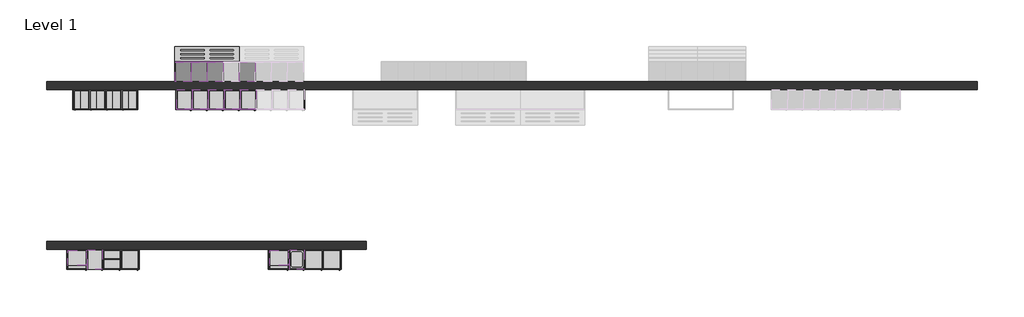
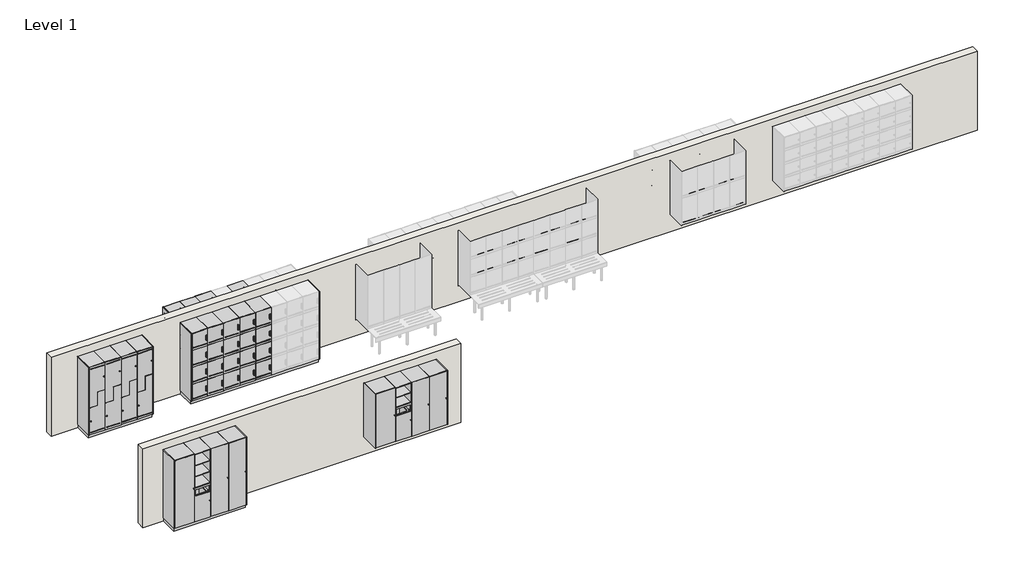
# One storey, part 1 of 3: 117 furniture elements, 2 walls.
"""IFC4 building model written with IfcOpenShell, lengths in millimetres."""

from ifc_helpers import new_model, si_unit, origin, origin_with_axes, place, context, project, spatial, polyline, outline, extrude, transform, mapped, element, save
from components import furniture_8c00c06e, furniture_f3d205c9, furniture_8214ae09, furniture_fe364a06, furniture_aa930519, standard_2dcb62da, standard_f5ae554c, standard_45df0485, standard_98e0e482, standard_d3161605, standard_4a91ac64, standard_77ee1bcb, standard_e3a21a26, standard_e2bbb5fc, standard_e0f8491c, standard_40445af7, standard_a614ba5f, standard_03c1f8a1, standard_9bb63482, standard_4930f884, standard_86fa131c, standard_540d4d76, standard_fa3f27c9, standard_7234d687, standard_b71e501f, standard_578dc294, standard_a6131b2d, standard_82cc17a7, standard_a539c340, standard_99a499ae, standard_25a9957e

model = new_model("IFC4")

# Units and contexts
model_context = context("Model", 3, world=origin())
ifc_project = project(units=[si_unit("LENGTHUNIT", "METRE", prefix="MILLI")], contexts=[model_context])

# Site, building, storey
site = spatial("IfcSite", under=ifc_project)
building = spatial("IfcBuilding", under=site)
storey = spatial("IfcBuildingStorey", under=building, Name="Level 1", Elevation=0.0)

# Furniture
placement = place(None, origin())
furniture_shape = furniture_8c00c06e(model_context)
element("IfcFurniture", 1, ObjectType="Lockers-Bay-Duracube-Duraloc : LPM-1900h x 500d x 400w with 100h x 50d Plinth-Stepped", at=placement, inside=storey, context=model_context, shape_type="MappedRepresentation", body=[
    mapped(furniture_shape, transform((-10635.1575415, 2567.7422336, 0.0), x_axis=(1.0, 0.0, 0.0), y_axis=(0.0, 1.0, 0.0), z_axis=(0.0, 0.0, 1.0))),
])
furniture_2_shape = furniture_f3d205c9(model_context)
element("IfcFurniture", 2, ObjectType="Lockers-Bay-Duracube-Duraloc : LPM-1900h x 500d x 400w with 100h x 50d Plinth", at=placement, inside=storey, context=model_context, shape_type="MappedRepresentation", body=[
    mapped(furniture_2_shape, transform((-8055.1575415, 2567.7422336, 0.0), x_axis=(1.0, 0.0, 0.0), y_axis=(0.0, 1.0, 0.0), z_axis=(0.0, 0.0, 1.0))),
])
furniture_3_shape = furniture_8214ae09(model_context)
element("IfcFurniture", 3, ObjectType="Lockers-Bay-Duracube-Duraloc : LWM-1900h x 500d x 400w @ 470h Wall", at=placement, inside=storey, context=model_context, shape_type="MappedRepresentation", body=[
    mapped(furniture_3_shape, transform((-7668.1575415, 3267.7422336, 0.0), x_axis=(-1.0, 0.0, 0.0), y_axis=(0.0, -1.0, 0.0), z_axis=(0.0, 0.0, 1.0))),
])
furniture_4_shape = furniture_fe364a06(model_context)
element("IfcFurniture", 4, ObjectType="Lockers-Bay-Duracube-End of Trip : LPM-1900h x 500d with 100h x 50d Plinth", at=placement, inside=storey, context=model_context, shape_type="MappedRepresentation", body=[
    mapped(furniture_4_shape, transform((-10795.1575415, -1432.2577664, 0.0), x_axis=(1.0, 0.0, 0.0), y_axis=(0.0, 1.0, 0.0), z_axis=(0.0, 0.0, 1.0))),
])
furniture_5_shape = furniture_aa930519(model_context)
element("IfcFurniture", 5, ObjectType="Lockers-Bay-Duracube-End of Trip : LWM-1900h x 500d @ 470h Wall", at=placement, inside=storey, context=model_context, shape_type="MappedRepresentation", body=[
    mapped(furniture_5_shape, transform((-5743.1575415, -1432.2577664, 0.0), x_axis=(1.0, 0.0, 0.0), y_axis=(0.0, 1.0, 0.0), z_axis=(0.0, 0.0, 1.0))),
])
standard_shape = standard_2dcb62da(model_context)
element("IfcFurniture", 6, ObjectType="X_Bench-Foot-Duracube-Wall Assembly : Standard", at=placement, inside=storey, context=model_context, shape_type="MappedRepresentation", body=[
    mapped(standard_shape, transform((-7229.9572151, 3517.7422336, 0.0), x_axis=(-1.0, 0.0, 0.0), y_axis=(0.0, -1.0, 0.0), z_axis=(0.0, 0.0, 1.0))),
])
standard_2_shape = standard_f5ae554c(model_context)
element("IfcFurniture", 7, ObjectType="X_Bench-Foot-Duracube-Wall Assembly : Standard", at=placement, inside=storey, context=model_context, shape_type="MappedRepresentation", body=[
    mapped(standard_2_shape, transform((-8012.357868, 3517.7422336, 0.0), x_axis=(1.0, 0.0, 0.0), y_axis=(0.0, 1.0, 0.0), z_axis=(0.0, 0.0, 1.0))),
])
standard_3_shape = standard_45df0485(model_context)
element("IfcFurniture", 8, ObjectType="X_Vanity-Angle-Duracube-Bench Support : Standard", at=placement, inside=storey, context=model_context, shape_type="MappedRepresentation", body=[
    mapped(standard_3_shape, transform((-7229.9572151, 3017.7422336, 417.0), x_axis=(-1.0, 0.0, 0.0), y_axis=(0.0, -1.0, 0.0), z_axis=(0.0, 0.0, 1.0))),
])
standard_4_shape = standard_98e0e482(model_context)
element("IfcFurniture", 9, ObjectType="X_Bench-Wall-Duracube-Locker : Standard", at=placement, inside=storey, context=model_context, shape_type="MappedRepresentation", body=[
    mapped(standard_4_shape, transform((-7229.9572151, 3110.2422336, 0.0), x_axis=(-1.0, 0.0, 0.0), y_axis=(0.0, -1.0, 0.0), z_axis=(0.0, 0.0, 1.0))),
])
standard_5_shape = standard_d3161605(model_context)
element("IfcFurniture", 10, ObjectType="X_Locker-Duracube-Bay : Standard", at=placement, inside=storey, context=model_context, shape_type="MappedRepresentation", body=[
    mapped(standard_5_shape, transform((-9266.857868, 2817.7422336, 1180.0), x_axis=(1.0, 0.0, 0.0), y_axis=(0.0, 1.0, 0.0), z_axis=(0.0, 0.0, 1.0))),
])
element("IfcFurniture", 11, ObjectType="X_Locker-Duracube-Bay : Standard", at=placement, inside=storey, context=model_context, shape_type="MappedRepresentation", body=[
    mapped(standard_5_shape, transform((-9666.857868, 2817.7422336, 1180.0), x_axis=(1.0, 0.0, 0.0), y_axis=(0.0, 1.0, 0.0), z_axis=(0.0, 0.0, 1.0))),
])
element("IfcFurniture", 12, ObjectType="X_Locker-Duracube-Bay : Standard", at=placement, inside=storey, context=model_context, shape_type="MappedRepresentation", body=[
    mapped(standard_5_shape, transform((-10066.857868, 2817.7422336, 1180.0), x_axis=(1.0, 0.0, 0.0), y_axis=(0.0, 1.0, 0.0), z_axis=(0.0, 0.0, 1.0))),
])
element("IfcFurniture", 13, ObjectType="X_Locker-Duracube-Bay : Standard", at=placement, inside=storey, context=model_context, shape_type="MappedRepresentation", body=[
    mapped(standard_5_shape, transform((-10466.857868, 2817.7422336, 1180.0), x_axis=(1.0, 0.0, 0.0), y_axis=(0.0, 1.0, 0.0), z_axis=(0.0, 0.0, 1.0))),
])
standard_6_shape = standard_4a91ac64(model_context)
element("IfcFurniture", 14, ObjectType="X_Locker-Duracube-Door : Standard", at=placement, inside=storey, context=model_context, shape_type="MappedRepresentation", body=[
    mapped(standard_6_shape, transform((-9266.857868, 2330.7422336, 1180.0), x_axis=(1.0, 0.0, 0.0), y_axis=(0.0, 1.0, 0.0), z_axis=(0.0, 0.0, 1.0))),
])
element("IfcFurniture", 15, ObjectType="X_Locker-Duracube-Door : Standard", at=placement, inside=storey, context=model_context, shape_type="MappedRepresentation", body=[
    mapped(standard_6_shape, transform((-9666.857868, 2330.7422336, 1180.0), x_axis=(1.0, 0.0, 0.0), y_axis=(0.0, 1.0, 0.0), z_axis=(0.0, 0.0, 1.0))),
])
element("IfcFurniture", 16, ObjectType="X_Locker-Duracube-Door : Standard", at=placement, inside=storey, context=model_context, shape_type="MappedRepresentation", body=[
    mapped(standard_6_shape, transform((-10066.857868, 2330.7422336, 1180.0), x_axis=(1.0, 0.0, 0.0), y_axis=(0.0, 1.0, 0.0), z_axis=(0.0, 0.0, 1.0))),
])
element("IfcFurniture", 17, ObjectType="X_Locker-Duracube-Door : Standard", at=placement, inside=storey, context=model_context, shape_type="MappedRepresentation", body=[
    mapped(standard_6_shape, transform((-10466.857868, 2330.7422336, 1180.0), x_axis=(1.0, 0.0, 0.0), y_axis=(0.0, 1.0, 0.0), z_axis=(0.0, 0.0, 1.0))),
])
standard_7_shape = standard_77ee1bcb(model_context)
element("IfcFurniture", 18, ObjectType="X_Locker-Duracube-Bay : Standard", at=placement, inside=storey, context=model_context, shape_type="MappedRepresentation", body=[
    mapped(standard_7_shape, transform((-9266.857868, 2817.7422336, 100.0), x_axis=(1.0, 0.0, 0.0), y_axis=(0.0, 1.0, 0.0), z_axis=(0.0, 0.0, 1.0))),
])
element("IfcFurniture", 19, ObjectType="X_Locker-Duracube-Bay : Standard", at=placement, inside=storey, context=model_context, shape_type="MappedRepresentation", body=[
    mapped(standard_7_shape, transform((-9666.857868, 2817.7422336, 100.0), x_axis=(1.0, 0.0, 0.0), y_axis=(0.0, 1.0, 0.0), z_axis=(0.0, 0.0, 1.0))),
])
element("IfcFurniture", 20, ObjectType="X_Locker-Duracube-Bay : Standard", at=placement, inside=storey, context=model_context, shape_type="MappedRepresentation", body=[
    mapped(standard_7_shape, transform((-10066.857868, 2817.7422336, 100.0), x_axis=(1.0, 0.0, 0.0), y_axis=(0.0, 1.0, 0.0), z_axis=(0.0, 0.0, 1.0))),
])
element("IfcFurniture", 21, ObjectType="X_Locker-Duracube-Bay : Standard", at=placement, inside=storey, context=model_context, shape_type="MappedRepresentation", body=[
    mapped(standard_7_shape, transform((-10466.857868, 2817.7422336, 100.0), x_axis=(1.0, 0.0, 0.0), y_axis=(0.0, 1.0, 0.0), z_axis=(0.0, 0.0, 1.0))),
])
standard_8_shape = standard_e3a21a26(model_context)
element("IfcFurniture", 22, ObjectType="X_Locker-Duracube-Door : Standard", at=placement, inside=storey, context=model_context, shape_type="MappedRepresentation", body=[
    mapped(standard_8_shape, transform((-9266.857868, 2330.7422336, 100.0), x_axis=(1.0, 0.0, 0.0), y_axis=(0.0, 1.0, 0.0), z_axis=(0.0, 0.0, 1.0))),
])
element("IfcFurniture", 23, ObjectType="X_Locker-Duracube-Door : Standard", at=placement, inside=storey, context=model_context, shape_type="MappedRepresentation", body=[
    mapped(standard_8_shape, transform((-9666.857868, 2330.7422336, 100.0), x_axis=(1.0, 0.0, 0.0), y_axis=(0.0, 1.0, 0.0), z_axis=(0.0, 0.0, 1.0))),
])
element("IfcFurniture", 24, ObjectType="X_Locker-Duracube-Door : Standard", at=placement, inside=storey, context=model_context, shape_type="MappedRepresentation", body=[
    mapped(standard_8_shape, transform((-10066.857868, 2330.7422336, 100.0), x_axis=(1.0, 0.0, 0.0), y_axis=(0.0, 1.0, 0.0), z_axis=(0.0, 0.0, 1.0))),
])
element("IfcFurniture", 25, ObjectType="X_Locker-Duracube-Door : Standard", at=placement, inside=storey, context=model_context, shape_type="MappedRepresentation", body=[
    mapped(standard_8_shape, transform((-10466.857868, 2330.7422336, 100.0), x_axis=(1.0, 0.0, 0.0), y_axis=(0.0, 1.0, 0.0), z_axis=(0.0, 0.0, 1.0))),
])
standard_9_shape = standard_e2bbb5fc(model_context)
element("IfcFurniture", 26, ObjectType="X_Locker-Duracube-Bay : Standard", at=placement, inside=storey, context=model_context, shape_type="MappedRepresentation", body=[
    mapped(standard_9_shape, transform((-6286.857868, 2817.7422336, 1450.0), x_axis=(1.0, 0.0, 0.0), y_axis=(0.0, 1.0, 0.0), z_axis=(0.0, 0.0, 1.0))),
])
element("IfcFurniture", 27, ObjectType="X_Locker-Duracube-Bay : Standard", at=placement, inside=storey, context=model_context, shape_type="MappedRepresentation", body=[
    mapped(standard_9_shape, transform((-6686.857868, 2817.7422336, 1450.0), x_axis=(1.0, 0.0, 0.0), y_axis=(0.0, 1.0, 0.0), z_axis=(0.0, 0.0, 1.0))),
])
element("IfcFurniture", 28, ObjectType="X_Locker-Duracube-Bay : Standard", at=placement, inside=storey, context=model_context, shape_type="MappedRepresentation", body=[
    mapped(standard_9_shape, transform((-7086.857868, 2817.7422336, 1450.0), x_axis=(1.0, 0.0, 0.0), y_axis=(0.0, 1.0, 0.0), z_axis=(0.0, 0.0, 1.0))),
])
element("IfcFurniture", 29, ObjectType="X_Locker-Duracube-Bay : Standard", at=placement, inside=storey, context=model_context, shape_type="MappedRepresentation", body=[
    mapped(standard_9_shape, transform((-7486.857868, 2817.7422336, 1450.0), x_axis=(1.0, 0.0, 0.0), y_axis=(0.0, 1.0, 0.0), z_axis=(0.0, 0.0, 1.0))),
])
element("IfcFurniture", 30, ObjectType="X_Locker-Duracube-Bay : Standard", at=placement, inside=storey, context=model_context, shape_type="MappedRepresentation", body=[
    mapped(standard_9_shape, transform((-7886.857868, 2817.7422336, 1450.0), x_axis=(1.0, 0.0, 0.0), y_axis=(0.0, 1.0, 0.0), z_axis=(0.0, 0.0, 1.0))),
])
standard_10_shape = standard_e0f8491c(model_context)
element("IfcFurniture", 31, ObjectType="X_Locker-Duracube-Door : Standard", at=placement, inside=storey, context=model_context, shape_type="MappedRepresentation", body=[
    mapped(standard_10_shape, transform((-6286.857868, 2330.7422336, 1450.0), x_axis=(1.0, 0.0, 0.0), y_axis=(0.0, 1.0, 0.0), z_axis=(0.0, 0.0, 1.0))),
])
element("IfcFurniture", 32, ObjectType="X_Locker-Duracube-Door : Standard", at=placement, inside=storey, context=model_context, shape_type="MappedRepresentation", body=[
    mapped(standard_10_shape, transform((-6686.857868, 2330.7422336, 1450.0), x_axis=(1.0, 0.0, 0.0), y_axis=(0.0, 1.0, 0.0), z_axis=(0.0, 0.0, 1.0))),
])
element("IfcFurniture", 33, ObjectType="X_Locker-Duracube-Door : Standard", at=placement, inside=storey, context=model_context, shape_type="MappedRepresentation", body=[
    mapped(standard_10_shape, transform((-7086.857868, 2330.7422336, 1450.0), x_axis=(1.0, 0.0, 0.0), y_axis=(0.0, 1.0, 0.0), z_axis=(0.0, 0.0, 1.0))),
])
element("IfcFurniture", 34, ObjectType="X_Locker-Duracube-Door : Standard", at=placement, inside=storey, context=model_context, shape_type="MappedRepresentation", body=[
    mapped(standard_10_shape, transform((-7486.857868, 2330.7422336, 1450.0), x_axis=(1.0, 0.0, 0.0), y_axis=(0.0, 1.0, 0.0), z_axis=(0.0, 0.0, 1.0))),
])
element("IfcFurniture", 35, ObjectType="X_Locker-Duracube-Door : Standard", at=placement, inside=storey, context=model_context, shape_type="MappedRepresentation", body=[
    mapped(standard_10_shape, transform((-7886.857868, 2330.7422336, 1450.0), x_axis=(1.0, 0.0, 0.0), y_axis=(0.0, 1.0, 0.0), z_axis=(0.0, 0.0, 1.0))),
])
element("IfcFurniture", 36, ObjectType="X_Locker-Duracube-Bay : Standard", at=placement, inside=storey, context=model_context, shape_type="MappedRepresentation", body=[
    mapped(standard_9_shape, transform((-6286.857868, 2817.7422336, 1000.0), x_axis=(1.0, 0.0, 0.0), y_axis=(0.0, 1.0, 0.0), z_axis=(0.0, 0.0, 1.0))),
])
element("IfcFurniture", 37, ObjectType="X_Locker-Duracube-Bay : Standard", at=placement, inside=storey, context=model_context, shape_type="MappedRepresentation", body=[
    mapped(standard_9_shape, transform((-6686.857868, 2817.7422336, 1000.0), x_axis=(1.0, 0.0, 0.0), y_axis=(0.0, 1.0, 0.0), z_axis=(0.0, 0.0, 1.0))),
])
element("IfcFurniture", 38, ObjectType="X_Locker-Duracube-Bay : Standard", at=placement, inside=storey, context=model_context, shape_type="MappedRepresentation", body=[
    mapped(standard_9_shape, transform((-7086.857868, 2817.7422336, 1000.0), x_axis=(1.0, 0.0, 0.0), y_axis=(0.0, 1.0, 0.0), z_axis=(0.0, 0.0, 1.0))),
])
element("IfcFurniture", 39, ObjectType="X_Locker-Duracube-Bay : Standard", at=placement, inside=storey, context=model_context, shape_type="MappedRepresentation", body=[
    mapped(standard_9_shape, transform((-6286.857868, 2817.7422336, 100.0), x_axis=(1.0, 0.0, 0.0), y_axis=(0.0, 1.0, 0.0), z_axis=(0.0, 0.0, 1.0))),
])
element("IfcFurniture", 40, ObjectType="X_Locker-Duracube-Bay : Standard", at=placement, inside=storey, context=model_context, shape_type="MappedRepresentation", body=[
    mapped(standard_9_shape, transform((-6686.857868, 2817.7422336, 100.0), x_axis=(1.0, 0.0, 0.0), y_axis=(0.0, 1.0, 0.0), z_axis=(0.0, 0.0, 1.0))),
])
element("IfcFurniture", 41, ObjectType="X_Locker-Duracube-Bay : Standard", at=placement, inside=storey, context=model_context, shape_type="MappedRepresentation", body=[
    mapped(standard_9_shape, transform((-7086.857868, 2817.7422336, 100.0), x_axis=(1.0, 0.0, 0.0), y_axis=(0.0, 1.0, 0.0), z_axis=(0.0, 0.0, 1.0))),
])
element("IfcFurniture", 42, ObjectType="X_Locker-Duracube-Bay : Standard", at=placement, inside=storey, context=model_context, shape_type="MappedRepresentation", body=[
    mapped(standard_9_shape, transform((-7486.857868, 2817.7422336, 1000.0), x_axis=(1.0, 0.0, 0.0), y_axis=(0.0, 1.0, 0.0), z_axis=(0.0, 0.0, 1.0))),
])
element("IfcFurniture", 43, ObjectType="X_Locker-Duracube-Bay : Standard", at=placement, inside=storey, context=model_context, shape_type="MappedRepresentation", body=[
    mapped(standard_9_shape, transform((-7486.857868, 2817.7422336, 100.0), x_axis=(1.0, 0.0, 0.0), y_axis=(0.0, 1.0, 0.0), z_axis=(0.0, 0.0, 1.0))),
])
element("IfcFurniture", 44, ObjectType="X_Locker-Duracube-Bay : Standard", at=placement, inside=storey, context=model_context, shape_type="MappedRepresentation", body=[
    mapped(standard_9_shape, transform((-7886.857868, 2817.7422336, 1000.0), x_axis=(1.0, 0.0, 0.0), y_axis=(0.0, 1.0, 0.0), z_axis=(0.0, 0.0, 1.0))),
])
element("IfcFurniture", 45, ObjectType="X_Locker-Duracube-Bay : Standard", at=placement, inside=storey, context=model_context, shape_type="MappedRepresentation", body=[
    mapped(standard_9_shape, transform((-7886.857868, 2817.7422336, 100.0), x_axis=(1.0, 0.0, 0.0), y_axis=(0.0, 1.0, 0.0), z_axis=(0.0, 0.0, 1.0))),
])
element("IfcFurniture", 46, ObjectType="X_Locker-Duracube-Door : Standard", at=placement, inside=storey, context=model_context, shape_type="MappedRepresentation", body=[
    mapped(standard_10_shape, transform((-6286.857868, 2330.7422336, 1000.0), x_axis=(1.0, 0.0, 0.0), y_axis=(0.0, 1.0, 0.0), z_axis=(0.0, 0.0, 1.0))),
])
element("IfcFurniture", 47, ObjectType="X_Locker-Duracube-Door : Standard", at=placement, inside=storey, context=model_context, shape_type="MappedRepresentation", body=[
    mapped(standard_10_shape, transform((-6686.857868, 2330.7422336, 1000.0), x_axis=(1.0, 0.0, 0.0), y_axis=(0.0, 1.0, 0.0), z_axis=(0.0, 0.0, 1.0))),
])
element("IfcFurniture", 48, ObjectType="X_Locker-Duracube-Door : Standard", at=placement, inside=storey, context=model_context, shape_type="MappedRepresentation", body=[
    mapped(standard_10_shape, transform((-7086.857868, 2330.7422336, 1000.0), x_axis=(1.0, 0.0, 0.0), y_axis=(0.0, 1.0, 0.0), z_axis=(0.0, 0.0, 1.0))),
])
element("IfcFurniture", 49, ObjectType="X_Locker-Duracube-Door : Standard", at=placement, inside=storey, context=model_context, shape_type="MappedRepresentation", body=[
    mapped(standard_10_shape, transform((-6286.857868, 2330.7422336, 100.0), x_axis=(1.0, 0.0, 0.0), y_axis=(0.0, 1.0, 0.0), z_axis=(0.0, 0.0, 1.0))),
])
element("IfcFurniture", 50, ObjectType="X_Locker-Duracube-Door : Standard", at=placement, inside=storey, context=model_context, shape_type="MappedRepresentation", body=[
    mapped(standard_10_shape, transform((-6686.857868, 2330.7422336, 100.0), x_axis=(1.0, 0.0, 0.0), y_axis=(0.0, 1.0, 0.0), z_axis=(0.0, 0.0, 1.0))),
])
element("IfcFurniture", 51, ObjectType="X_Locker-Duracube-Door : Standard", at=placement, inside=storey, context=model_context, shape_type="MappedRepresentation", body=[
    mapped(standard_10_shape, transform((-7086.857868, 2330.7422336, 100.0), x_axis=(1.0, 0.0, 0.0), y_axis=(0.0, 1.0, 0.0), z_axis=(0.0, 0.0, 1.0))),
])
element("IfcFurniture", 52, ObjectType="X_Locker-Duracube-Door : Standard", at=placement, inside=storey, context=model_context, shape_type="MappedRepresentation", body=[
    mapped(standard_10_shape, transform((-7486.857868, 2330.7422336, 1000.0), x_axis=(1.0, 0.0, 0.0), y_axis=(0.0, 1.0, 0.0), z_axis=(0.0, 0.0, 1.0))),
])
element("IfcFurniture", 53, ObjectType="X_Locker-Duracube-Door : Standard", at=placement, inside=storey, context=model_context, shape_type="MappedRepresentation", body=[
    mapped(standard_10_shape, transform((-7486.857868, 2330.7422336, 100.0), x_axis=(1.0, 0.0, 0.0), y_axis=(0.0, 1.0, 0.0), z_axis=(0.0, 0.0, 1.0))),
])
element("IfcFurniture", 54, ObjectType="X_Locker-Duracube-Door : Standard", at=placement, inside=storey, context=model_context, shape_type="MappedRepresentation", body=[
    mapped(standard_10_shape, transform((-7886.857868, 2330.7422336, 1000.0), x_axis=(1.0, 0.0, 0.0), y_axis=(0.0, 1.0, 0.0), z_axis=(0.0, 0.0, 1.0))),
])
element("IfcFurniture", 55, ObjectType="X_Locker-Duracube-Door : Standard", at=placement, inside=storey, context=model_context, shape_type="MappedRepresentation", body=[
    mapped(standard_10_shape, transform((-7886.857868, 2330.7422336, 100.0), x_axis=(1.0, 0.0, 0.0), y_axis=(0.0, 1.0, 0.0), z_axis=(0.0, 0.0, 1.0))),
])
element("IfcFurniture", 56, ObjectType="X_Locker-Duracube-Bay : Standard", at=placement, inside=storey, context=model_context, shape_type="MappedRepresentation", body=[
    mapped(standard_9_shape, transform((-6286.857868, 2817.7422336, 550.0), x_axis=(1.0, 0.0, 0.0), y_axis=(0.0, 1.0, 0.0), z_axis=(0.0, 0.0, 1.0))),
])
element("IfcFurniture", 57, ObjectType="X_Locker-Duracube-Bay : Standard", at=placement, inside=storey, context=model_context, shape_type="MappedRepresentation", body=[
    mapped(standard_9_shape, transform((-6686.857868, 2817.7422336, 550.0), x_axis=(1.0, 0.0, 0.0), y_axis=(0.0, 1.0, 0.0), z_axis=(0.0, 0.0, 1.0))),
])
element("IfcFurniture", 58, ObjectType="X_Locker-Duracube-Bay : Standard", at=placement, inside=storey, context=model_context, shape_type="MappedRepresentation", body=[
    mapped(standard_9_shape, transform((-7086.857868, 2817.7422336, 550.0), x_axis=(1.0, 0.0, 0.0), y_axis=(0.0, 1.0, 0.0), z_axis=(0.0, 0.0, 1.0))),
])
element("IfcFurniture", 59, ObjectType="X_Locker-Duracube-Bay : Standard", at=placement, inside=storey, context=model_context, shape_type="MappedRepresentation", body=[
    mapped(standard_9_shape, transform((-7486.857868, 2817.7422336, 550.0), x_axis=(1.0, 0.0, 0.0), y_axis=(0.0, 1.0, 0.0), z_axis=(0.0, 0.0, 1.0))),
])
element("IfcFurniture", 60, ObjectType="X_Locker-Duracube-Bay : Standard", at=placement, inside=storey, context=model_context, shape_type="MappedRepresentation", body=[
    mapped(standard_9_shape, transform((-7886.857868, 2817.7422336, 550.0), x_axis=(1.0, 0.0, 0.0), y_axis=(0.0, 1.0, 0.0), z_axis=(0.0, 0.0, 1.0))),
])
element("IfcFurniture", 61, ObjectType="X_Locker-Duracube-Door : Standard", at=placement, inside=storey, context=model_context, shape_type="MappedRepresentation", body=[
    mapped(standard_10_shape, transform((-6286.857868, 2330.7422336, 550.0), x_axis=(1.0, 0.0, 0.0), y_axis=(0.0, 1.0, 0.0), z_axis=(0.0, 0.0, 1.0))),
])
element("IfcFurniture", 62, ObjectType="X_Locker-Duracube-Door : Standard", at=placement, inside=storey, context=model_context, shape_type="MappedRepresentation", body=[
    mapped(standard_10_shape, transform((-6686.857868, 2330.7422336, 550.0), x_axis=(1.0, 0.0, 0.0), y_axis=(0.0, 1.0, 0.0), z_axis=(0.0, 0.0, 1.0))),
])
element("IfcFurniture", 63, ObjectType="X_Locker-Duracube-Door : Standard", at=placement, inside=storey, context=model_context, shape_type="MappedRepresentation", body=[
    mapped(standard_10_shape, transform((-7086.857868, 2330.7422336, 550.0), x_axis=(1.0, 0.0, 0.0), y_axis=(0.0, 1.0, 0.0), z_axis=(0.0, 0.0, 1.0))),
])
element("IfcFurniture", 64, ObjectType="X_Locker-Duracube-Door : Standard", at=placement, inside=storey, context=model_context, shape_type="MappedRepresentation", body=[
    mapped(standard_10_shape, transform((-7486.857868, 2330.7422336, 550.0), x_axis=(1.0, 0.0, 0.0), y_axis=(0.0, 1.0, 0.0), z_axis=(0.0, 0.0, 1.0))),
])
element("IfcFurniture", 65, ObjectType="X_Locker-Duracube-Door : Standard", at=placement, inside=storey, context=model_context, shape_type="MappedRepresentation", body=[
    mapped(standard_10_shape, transform((-7886.857868, 2330.7422336, 550.0), x_axis=(1.0, 0.0, 0.0), y_axis=(0.0, 1.0, 0.0), z_axis=(0.0, 0.0, 1.0))),
])
standard_11_shape = standard_40445af7(model_context)
element("IfcFurniture", 66, ObjectType="X_Locker-Duracube-Bay : Standard", at=placement, inside=storey, context=model_context, shape_type="MappedRepresentation", body=[
    mapped(standard_11_shape, transform((-6223.4572151, 3017.7422336, 827.5), x_axis=(-1.0, 0.0, 0.0), y_axis=(0.0, -1.0, 0.0), z_axis=(0.0, 0.0, 1.0))),
])
element("IfcFurniture", 67, ObjectType="X_Locker-Duracube-Bay : Standard", at=placement, inside=storey, context=model_context, shape_type="MappedRepresentation", body=[
    mapped(standard_11_shape, transform((-6223.4572151, 3017.7422336, 1542.5), x_axis=(-1.0, 0.0, 0.0), y_axis=(0.0, -1.0, 0.0), z_axis=(0.0, 0.0, 1.0))),
])
element("IfcFurniture", 68, ObjectType="X_Locker-Duracube-Bay : Standard", at=placement, inside=storey, context=model_context, shape_type="MappedRepresentation", body=[
    mapped(standard_11_shape, transform((-7023.4572151, 3017.7422336, 827.5), x_axis=(-1.0, 0.0, 0.0), y_axis=(0.0, -1.0, 0.0), z_axis=(0.0, 0.0, 1.0))),
])
element("IfcFurniture", 69, ObjectType="X_Locker-Duracube-Bay : Standard", at=placement, inside=storey, context=model_context, shape_type="MappedRepresentation", body=[
    mapped(standard_11_shape, transform((-7023.4572151, 3017.7422336, 1542.5), x_axis=(-1.0, 0.0, 0.0), y_axis=(0.0, -1.0, 0.0), z_axis=(0.0, 0.0, 1.0))),
])
element("IfcFurniture", 70, ObjectType="X_Locker-Duracube-Bay : Standard", at=placement, inside=storey, context=model_context, shape_type="MappedRepresentation", body=[
    mapped(standard_11_shape, transform((-7423.4572151, 3017.7422336, 470.0), x_axis=(-1.0, 0.0, 0.0), y_axis=(0.0, -1.0, 0.0), z_axis=(0.0, 0.0, 1.0))),
])
element("IfcFurniture", 71, ObjectType="X_Locker-Duracube-Bay : Standard", at=placement, inside=storey, context=model_context, shape_type="MappedRepresentation", body=[
    mapped(standard_11_shape, transform((-7423.4572151, 3017.7422336, 1185.0), x_axis=(-1.0, 0.0, 0.0), y_axis=(0.0, -1.0, 0.0), z_axis=(0.0, 0.0, 1.0))),
])
element("IfcFurniture", 72, ObjectType="X_Locker-Duracube-Bay : Standard", at=placement, inside=storey, context=model_context, shape_type="MappedRepresentation", body=[
    mapped(standard_11_shape, transform((-7823.4572151, 3017.7422336, 827.5), x_axis=(-1.0, 0.0, 0.0), y_axis=(0.0, -1.0, 0.0), z_axis=(0.0, 0.0, 1.0))),
])
element("IfcFurniture", 73, ObjectType="X_Locker-Duracube-Bay : Standard", at=placement, inside=storey, context=model_context, shape_type="MappedRepresentation", body=[
    mapped(standard_11_shape, transform((-7823.4572151, 3017.7422336, 1542.5), x_axis=(-1.0, 0.0, 0.0), y_axis=(0.0, -1.0, 0.0), z_axis=(0.0, 0.0, 1.0))),
])
standard_12_shape = standard_a614ba5f(model_context)
element("IfcFurniture", 74, ObjectType="X_Locker-Duracube-Door : Standard", at=placement, inside=storey, context=model_context, shape_type="MappedRepresentation", body=[
    mapped(standard_12_shape, transform((-6223.4572151, 3504.7422336, 827.5), x_axis=(-1.0, 0.0, 0.0), y_axis=(0.0, -1.0, 0.0), z_axis=(0.0, 0.0, 1.0))),
])
element("IfcFurniture", 75, ObjectType="X_Locker-Duracube-Door : Standard", at=placement, inside=storey, context=model_context, shape_type="MappedRepresentation", body=[
    mapped(standard_12_shape, transform((-7023.4572151, 3504.7422336, 827.5), x_axis=(-1.0, 0.0, 0.0), y_axis=(0.0, -1.0, 0.0), z_axis=(0.0, 0.0, 1.0))),
])
element("IfcFurniture", 76, ObjectType="X_Locker-Duracube-Door : Standard", at=placement, inside=storey, context=model_context, shape_type="MappedRepresentation", body=[
    mapped(standard_12_shape, transform((-7023.4572151, 3504.7422336, 1542.5), x_axis=(-1.0, 0.0, 0.0), y_axis=(0.0, -1.0, 0.0), z_axis=(0.0, 0.0, 1.0))),
])
element("IfcFurniture", 77, ObjectType="X_Locker-Duracube-Door : Standard", at=placement, inside=storey, context=model_context, shape_type="MappedRepresentation", body=[
    mapped(standard_12_shape, transform((-7423.4572151, 3504.7422336, 470.0), x_axis=(-1.0, 0.0, 0.0), y_axis=(0.0, -1.0, 0.0), z_axis=(0.0, 0.0, 1.0))),
])
element("IfcFurniture", 78, ObjectType="X_Locker-Duracube-Door : Standard", at=placement, inside=storey, context=model_context, shape_type="MappedRepresentation", body=[
    mapped(standard_12_shape, transform((-7423.4572151, 3504.7422336, 1185.0), x_axis=(-1.0, 0.0, 0.0), y_axis=(0.0, -1.0, 0.0), z_axis=(0.0, 0.0, 1.0))),
])
element("IfcFurniture", 79, ObjectType="X_Locker-Duracube-Door : Standard", at=placement, inside=storey, context=model_context, shape_type="MappedRepresentation", body=[
    mapped(standard_12_shape, transform((-7823.4572151, 3504.7422336, 827.5), x_axis=(-1.0, 0.0, 0.0), y_axis=(0.0, -1.0, 0.0), z_axis=(0.0, 0.0, 1.0))),
])
element("IfcFurniture", 80, ObjectType="X_Locker-Duracube-Door : Standard", at=placement, inside=storey, context=model_context, shape_type="MappedRepresentation", body=[
    mapped(standard_12_shape, transform((-7823.4572151, 3504.7422336, 1542.5), x_axis=(-1.0, 0.0, 0.0), y_axis=(0.0, -1.0, 0.0), z_axis=(0.0, 0.0, 1.0))),
])
element("IfcFurniture", 81, ObjectType="X_Locker-Duracube-Bay : Standard", at=placement, inside=storey, context=model_context, shape_type="MappedRepresentation", body=[
    mapped(standard_11_shape, transform((-6223.4572151, 3017.7422336, 470.0), x_axis=(-1.0, 0.0, 0.0), y_axis=(0.0, -1.0, 0.0), z_axis=(0.0, 0.0, 1.0))),
])
element("IfcFurniture", 82, ObjectType="X_Locker-Duracube-Bay : Standard", at=placement, inside=storey, context=model_context, shape_type="MappedRepresentation", body=[
    mapped(standard_11_shape, transform((-7023.4572151, 3017.7422336, 470.0), x_axis=(-1.0, 0.0, 0.0), y_axis=(0.0, -1.0, 0.0), z_axis=(0.0, 0.0, 1.0))),
])
element("IfcFurniture", 83, ObjectType="X_Locker-Duracube-Bay : Standard", at=placement, inside=storey, context=model_context, shape_type="MappedRepresentation", body=[
    mapped(standard_11_shape, transform((-7423.4572151, 3017.7422336, 827.5), x_axis=(-1.0, 0.0, 0.0), y_axis=(0.0, -1.0, 0.0), z_axis=(0.0, 0.0, 1.0))),
])
element("IfcFurniture", 84, ObjectType="X_Locker-Duracube-Bay : Standard", at=placement, inside=storey, context=model_context, shape_type="MappedRepresentation", body=[
    mapped(standard_11_shape, transform((-7823.4572151, 3017.7422336, 1185.0), x_axis=(-1.0, 0.0, 0.0), y_axis=(0.0, -1.0, 0.0), z_axis=(0.0, 0.0, 1.0))),
])
element("IfcFurniture", 85, ObjectType="X_Locker-Duracube-Door : Standard", at=placement, inside=storey, context=model_context, shape_type="MappedRepresentation", body=[
    mapped(standard_12_shape, transform((-6223.4572151, 3504.7422336, 470.0), x_axis=(-1.0, 0.0, 0.0), y_axis=(0.0, -1.0, 0.0), z_axis=(0.0, 0.0, 1.0))),
])
element("IfcFurniture", 86, ObjectType="X_Locker-Duracube-Door : Standard", at=placement, inside=storey, context=model_context, shape_type="MappedRepresentation", body=[
    mapped(standard_12_shape, transform((-7023.4572151, 3504.7422336, 470.0), x_axis=(-1.0, 0.0, 0.0), y_axis=(0.0, -1.0, 0.0), z_axis=(0.0, 0.0, 1.0))),
])
element("IfcFurniture", 87, ObjectType="X_Locker-Duracube-Door : Standard", at=placement, inside=storey, context=model_context, shape_type="MappedRepresentation", body=[
    mapped(standard_12_shape, transform((-7423.4572151, 3504.7422336, 827.5), x_axis=(-1.0, 0.0, 0.0), y_axis=(0.0, -1.0, 0.0), z_axis=(0.0, 0.0, 1.0))),
])
element("IfcFurniture", 88, ObjectType="X_Locker-Duracube-Door : Standard", at=placement, inside=storey, context=model_context, shape_type="MappedRepresentation", body=[
    mapped(standard_12_shape, transform((-7823.4572151, 3504.7422336, 1185.0), x_axis=(-1.0, 0.0, 0.0), y_axis=(0.0, -1.0, 0.0), z_axis=(0.0, 0.0, 1.0))),
])
element("IfcFurniture", 89, ObjectType="X_Locker-Duracube-Bay : Standard", at=placement, inside=storey, context=model_context, shape_type="MappedRepresentation", body=[
    mapped(standard_11_shape, transform((-6223.4572151, 3017.7422336, 1185.0), x_axis=(-1.0, 0.0, 0.0), y_axis=(0.0, -1.0, 0.0), z_axis=(0.0, 0.0, 1.0))),
])
element("IfcFurniture", 90, ObjectType="X_Locker-Duracube-Bay : Standard", at=placement, inside=storey, context=model_context, shape_type="MappedRepresentation", body=[
    mapped(standard_11_shape, transform((-7023.4572151, 3017.7422336, 1185.0), x_axis=(-1.0, 0.0, 0.0), y_axis=(0.0, -1.0, 0.0), z_axis=(0.0, 0.0, 1.0))),
])
element("IfcFurniture", 91, ObjectType="X_Locker-Duracube-Bay : Standard", at=placement, inside=storey, context=model_context, shape_type="MappedRepresentation", body=[
    mapped(standard_11_shape, transform((-7423.4572151, 3017.7422336, 1542.5), x_axis=(-1.0, 0.0, 0.0), y_axis=(0.0, -1.0, 0.0), z_axis=(0.0, 0.0, 1.0))),
])
element("IfcFurniture", 92, ObjectType="X_Locker-Duracube-Bay : Standard", at=placement, inside=storey, context=model_context, shape_type="MappedRepresentation", body=[
    mapped(standard_11_shape, transform((-7823.4572151, 3017.7422336, 470.0), x_axis=(-1.0, 0.0, 0.0), y_axis=(0.0, -1.0, 0.0), z_axis=(0.0, 0.0, 1.0))),
])
element("IfcFurniture", 93, ObjectType="X_Locker-Duracube-Door : Standard", at=placement, inside=storey, context=model_context, shape_type="MappedRepresentation", body=[
    mapped(standard_12_shape, transform((-7023.4572151, 3504.7422336, 1185.0), x_axis=(-1.0, 0.0, 0.0), y_axis=(0.0, -1.0, 0.0), z_axis=(0.0, 0.0, 1.0))),
])
element("IfcFurniture", 94, ObjectType="X_Locker-Duracube-Door : Standard", at=placement, inside=storey, context=model_context, shape_type="MappedRepresentation", body=[
    mapped(standard_12_shape, transform((-7423.4572151, 3504.7422336, 1542.5), x_axis=(-1.0, 0.0, 0.0), y_axis=(0.0, -1.0, 0.0), z_axis=(0.0, 0.0, 1.0))),
])
element("IfcFurniture", 95, ObjectType="X_Locker-Duracube-Door : Standard", at=placement, inside=storey, context=model_context, shape_type="MappedRepresentation", body=[
    mapped(standard_12_shape, transform((-7823.4572151, 3504.7422336, 470.0), x_axis=(-1.0, 0.0, 0.0), y_axis=(0.0, -1.0, 0.0), z_axis=(0.0, 0.0, 1.0))),
])
standard_13_shape = standard_03c1f8a1(model_context)
element("IfcFurniture", 96, ObjectType="X_Locker-Duracube-Shelf : Standard", at=placement, inside=storey, context=model_context, shape_type="MappedRepresentation", body=[
    mapped(standard_13_shape, transform((-10576.857868, -795.7577664, 1493.0), x_axis=(1.0, 0.0, 0.0), y_axis=(0.0, 1.0, 0.0), z_axis=(0.0, 0.0, 1.0))),
])
element("IfcFurniture", 97, ObjectType="X_Locker-Duracube-Shelf : Standard", at=placement, inside=storey, context=model_context, shape_type="MappedRepresentation", body=[
    mapped(standard_13_shape, transform((-10576.857868, -795.7577664, 1087.0), x_axis=(1.0, 0.0, 0.0), y_axis=(0.0, 1.0, 0.0), z_axis=(0.0, 0.0, 1.0))),
])
element("IfcFurniture", 98, ObjectType="X_Locker-Duracube-Shelf : Standard", at=placement, inside=storey, context=model_context, shape_type="MappedRepresentation", body=[
    mapped(standard_13_shape, transform((-5524.857868, -795.7577664, 1493.0), x_axis=(1.0, 0.0, 0.0), y_axis=(0.0, 1.0, 0.0), z_axis=(0.0, 0.0, 1.0))),
])
element("IfcFurniture", 99, ObjectType="X_Locker-Duracube-Shelf : Standard", at=placement, inside=storey, context=model_context, shape_type="MappedRepresentation", body=[
    mapped(standard_13_shape, transform((-5524.857868, -795.7577664, 1087.0), x_axis=(1.0, 0.0, 0.0), y_axis=(0.0, 1.0, 0.0), z_axis=(0.0, 0.0, 1.0))),
])
standard_14_shape = standard_9bb63482(model_context)
element("IfcFurniture", 100, ObjectType="X_Locker-Duracube-Shelf : Standard", at=placement, inside=storey, context=model_context, shape_type="MappedRepresentation", body=[
    mapped(standard_14_shape, transform((-10576.857868, -876.7577664, 664.0), x_axis=(1.0, 0.0, 0.0), y_axis=(0.0, 1.0, 0.0), z_axis=(0.0, 0.0, 1.0))),
])
standard_15_shape = standard_4930f884(model_context)
element("IfcFurniture", 101, ObjectType="X_Locker-Duracube-Door : Standard", at=placement, inside=storey, context=model_context, shape_type="MappedRepresentation", body=[
    mapped(standard_15_shape, transform((-10576.857868, -1669.2577664, 100.0), x_axis=(1.0, 0.0, 0.0), y_axis=(0.0, 1.0, 0.0), z_axis=(0.0, 0.0, 1.0))),
])
standard_16_shape = standard_86fa131c(model_context)
element("IfcFurniture", 102, ObjectType="X_Locker-Duracube-Door : Standard", at=placement, inside=storey, context=model_context, shape_type="MappedRepresentation", body=[
    mapped(standard_16_shape, transform((-5524.857868, -1669.2577664, 470.0), x_axis=(1.0, 0.0, 0.0), y_axis=(0.0, 1.0, 0.0), z_axis=(0.0, 0.0, 1.0))),
])
standard_17_shape = standard_540d4d76(model_context)
element("IfcFurniture", 103, ObjectType="X_Locker-Duracube-EOT Bay : Standard", at=placement, inside=storey, context=model_context, shape_type="MappedRepresentation", body=[
    mapped(standard_17_shape, transform((-10576.857868, -1182.2577664, 100.0), x_axis=(1.0, 0.0, 0.0), y_axis=(0.0, 1.0, 0.0), z_axis=(0.0, 0.0, 1.0))),
])
standard_18_shape = standard_fa3f27c9(model_context)
element("IfcFurniture", 104, ObjectType="X_Locker-Duracube-EOT Bay : Standard", at=placement, inside=storey, context=model_context, shape_type="MappedRepresentation", body=[
    mapped(standard_18_shape, transform((-5524.857868, -1182.2577664, 470.0), x_axis=(1.0, 0.0, 0.0), y_axis=(0.0, 1.0, 0.0), z_axis=(0.0, 0.0, 1.0))),
])
standard_19_shape = standard_7234d687(model_context)
element("IfcFurniture", 105, ObjectType="X_Locker-Duracube-EOT Bay : Standard", at=placement, inside=storey, context=model_context, shape_type="MappedRepresentation", body=[
    mapped(standard_19_shape, transform((-10126.857868, -1182.2577664, 100.0), x_axis=(1.0, 0.0, 0.0), y_axis=(0.0, 1.0, 0.0), z_axis=(0.0, 0.0, 1.0))),
])
standard_20_shape = standard_b71e501f(model_context)
element("IfcFurniture", 106, ObjectType="X_Locker-Duracube-Shelf : Standard", at=placement, inside=storey, context=model_context, shape_type="MappedRepresentation", body=[
    mapped(standard_20_shape, transform((-10126.857868, -889.7577664, 1294.6666667), x_axis=(1.0, 0.0, 0.0), y_axis=(0.0, 1.0, 0.0), z_axis=(0.0, 0.0, 1.0))),
])
element("IfcFurniture", 107, ObjectType="X_Locker-Duracube-Shelf : Standard", at=placement, inside=storey, context=model_context, shape_type="MappedRepresentation", body=[
    mapped(standard_20_shape, transform((-10126.857868, -889.7577664, 1589.3333333), x_axis=(1.0, 0.0, 0.0), y_axis=(0.0, 1.0, 0.0), z_axis=(0.0, 0.0, 1.0))),
])
element("IfcFurniture", 108, ObjectType="X_Locker-Duracube-Shelf : Standard", at=placement, inside=storey, context=model_context, shape_type="MappedRepresentation", body=[
    mapped(standard_20_shape, transform((-5074.857868, -889.7577664, 1627.0), x_axis=(1.0, 0.0, 0.0), y_axis=(0.0, 1.0, 0.0), z_axis=(0.0, 0.0, 1.0))),
])
standard_21_shape = standard_578dc294(model_context)
element("IfcFurniture", 109, ObjectType="X_Locker-Duracube-EOT Bay : Standard", at=placement, inside=storey, context=model_context, shape_type="MappedRepresentation", body=[
    mapped(standard_21_shape, transform((-9701.857868, -1182.2577664, 100.0), x_axis=(1.0, 0.0, 0.0), y_axis=(0.0, 1.0, 0.0), z_axis=(0.0, 0.0, 1.0))),
])
standard_22_shape = standard_a6131b2d(model_context)
element("IfcFurniture", 110, ObjectType="X_Locker-Duracube-Door : Standard", at=placement, inside=storey, context=model_context, shape_type="MappedRepresentation", body=[
    mapped(standard_22_shape, transform((-9701.857868, -1669.2577664, 100.0), x_axis=(1.0, 0.0, 0.0), y_axis=(0.0, 1.0, 0.0), z_axis=(0.0, 0.0, 1.0))),
])
element("IfcFurniture", 111, ObjectType="X_Locker-Duracube-Door : Standard", at=placement, inside=storey, context=model_context, shape_type="MappedRepresentation", body=[
    mapped(standard_22_shape, transform((-9251.857868, -1669.2577664, 100.0), x_axis=(1.0, 0.0, 0.0), y_axis=(0.0, 1.0, 0.0), z_axis=(0.0, 0.0, 1.0))),
])
standard_23_shape = standard_82cc17a7(model_context)
element("IfcFurniture", 112, ObjectType="X_Locker-Duracube-EOT Bay : Standard", at=placement, inside=storey, context=model_context, shape_type="MappedRepresentation", body=[
    mapped(standard_23_shape, transform((-9251.857868, -1182.2577664, 100.0), x_axis=(1.0, 0.0, 0.0), y_axis=(0.0, 1.0, 0.0), z_axis=(0.0, 0.0, 1.0))),
])
standard_24_shape = standard_a539c340(model_context)
element("IfcFurniture", 113, ObjectType="X_Locker-Duracube-EOT Bay : Standard", at=placement, inside=storey, context=model_context, shape_type="MappedRepresentation", body=[
    mapped(standard_24_shape, transform((-5074.857868, -1182.2577664, 470.0), x_axis=(1.0, 0.0, 0.0), y_axis=(0.0, 1.0, 0.0), z_axis=(0.0, 0.0, 1.0))),
])
standard_25_shape = standard_99a499ae(model_context)
element("IfcFurniture", 114, ObjectType="X_Locker-Duracube-EOT Bay : Standard", at=placement, inside=storey, context=model_context, shape_type="MappedRepresentation", body=[
    mapped(standard_25_shape, transform((-4649.857868, -1182.2577664, 470.0), x_axis=(1.0, 0.0, 0.0), y_axis=(0.0, 1.0, 0.0), z_axis=(0.0, 0.0, 1.0))),
])
standard_26_shape = standard_25a9957e(model_context)
element("IfcFurniture", 115, ObjectType="X_Locker-Duracube-Door : Standard", at=placement, inside=storey, context=model_context, shape_type="MappedRepresentation", body=[
    mapped(standard_26_shape, transform((-4649.857868, -1669.2577664, 470.0), x_axis=(1.0, 0.0, 0.0), y_axis=(0.0, 1.0, 0.0), z_axis=(0.0, 0.0, 1.0))),
])
element("IfcFurniture", 116, ObjectType="X_Locker-Duracube-Door : Standard", at=placement, inside=storey, context=model_context, shape_type="MappedRepresentation", body=[
    mapped(standard_26_shape, transform((-4199.857868, -1669.2577664, 470.0), x_axis=(1.0, 0.0, 0.0), y_axis=(0.0, 1.0, 0.0), z_axis=(0.0, 0.0, 1.0))),
])
element("IfcFurniture", 117, ObjectType="X_Locker-Duracube-EOT Bay : Standard", at=placement, inside=storey, context=model_context, shape_type="MappedRepresentation", body=[
    mapped(standard_25_shape, transform((-4199.857868, -1182.2577664, 470.0), x_axis=(1.0, 0.0, 0.0), y_axis=(0.0, 1.0, 0.0), z_axis=(0.0, 0.0, 1.0))),
])

# Walls
element("IfcWall", 118, ObjectType="Generic - 200mm", at=placement, inside=storey, context=model_context, shape_type="SweptSolid", body=[
    extrude(outline(polyline([(12004.8424585, 2817.7422336), (-11295.1575415, 2817.7422336), (-11295.1575415, 3017.7422336), (12004.8424585, 3017.7422336), (12004.8424585, 2817.7422336)])), origin_with_axes(), (0.0, 0.0, 1.0), 2100.0),
])
element("IfcWall", 119, ObjectType="Generic - 200mm", at=placement, inside=storey, context=model_context, shape_type="SweptSolid", body=[
    extrude(outline(polyline([(-3295.1575415, -1182.2577664), (-11295.1575415, -1182.2577664), (-11295.1575415, -982.2577664), (-3295.1575415, -982.2577664), (-3295.1575415, -1182.2577664)])), origin_with_axes(), (0.0, 0.0, 1.0), 2100.0),
])

save(model, "model.ifc")
